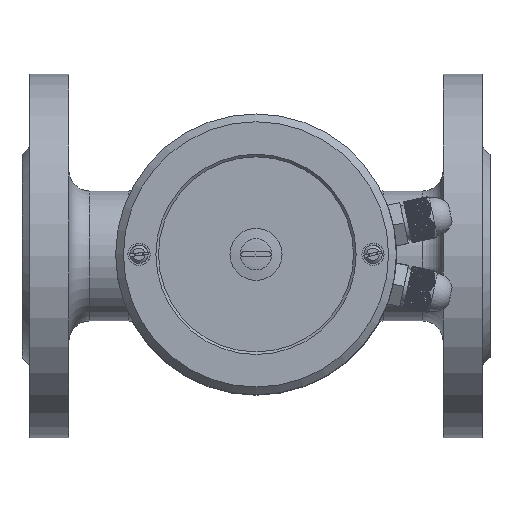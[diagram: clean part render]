
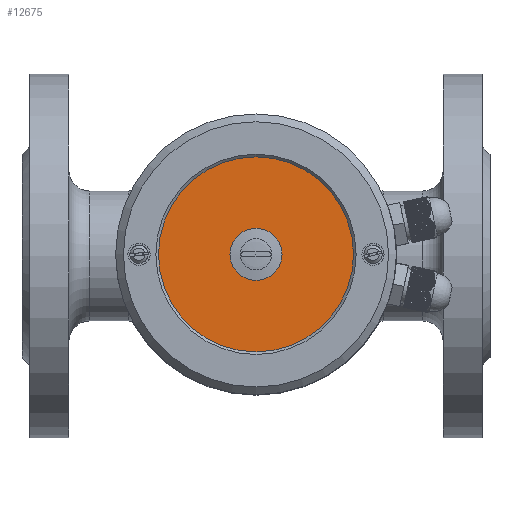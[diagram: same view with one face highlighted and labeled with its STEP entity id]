
A CAD part, top view. The second image highlights one B-rep face of the part: STEP entity #12675.
In plain terms, the highlighted planar face has unit normal (0, 0, 1).
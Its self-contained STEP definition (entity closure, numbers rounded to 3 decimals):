
#12675=ADVANCED_FACE('',(#32685,#32687),#32689,.T.);
#32685=FACE_BOUND('',#32686,.T.);
#32686=EDGE_LOOP('',(#46127));
#32687=FACE_BOUND('',#32688,.T.);
#32688=EDGE_LOOP('',(#46128));
#32689=PLANE('',#32690);
#32690=AXIS2_PLACEMENT_3D('',#32691,#32692,#32693);
#32691=CARTESIAN_POINT('',(0.,0.,358.506));
#32692=DIRECTION('',(0.,0.,1.));
#32693=DIRECTION('',(1.,0.,0.));
#46127=ORIENTED_EDGE('',*,*,#53425,.T.);
#46128=ORIENTED_EDGE('',*,*,#53430,.F.);
#53425=EDGE_CURVE('',#61378,#61378,#61379,.T.);
#53430=EDGE_CURVE('',#61388,#61388,#61389,.T.);
#61378=VERTEX_POINT('',#95901);
#61379=CIRCLE('',#95902,37.5);
#61388=VERTEX_POINT('',#95926);
#61389=CIRCLE('',#95927,10.007);
#95901=CARTESIAN_POINT('',(37.5,0.,358.506));
#95902=AXIS2_PLACEMENT_3D('',#95903,#95904,#95905);
#95903=CARTESIAN_POINT('',(0.,0.,358.506));
#95904=DIRECTION('',(0.,0.,1.));
#95905=DIRECTION('',(1.,0.,0.));
#95926=CARTESIAN_POINT('',(10.007,0.,358.506));
#95927=AXIS2_PLACEMENT_3D('',#95928,#95929,#95930);
#95928=CARTESIAN_POINT('',(0.,0.,358.506));
#95929=DIRECTION('',(0.,0.,1.));
#95930=DIRECTION('',(1.,0.,0.));
